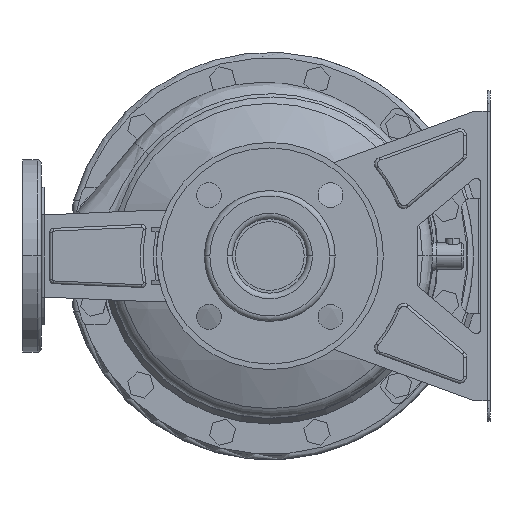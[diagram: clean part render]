
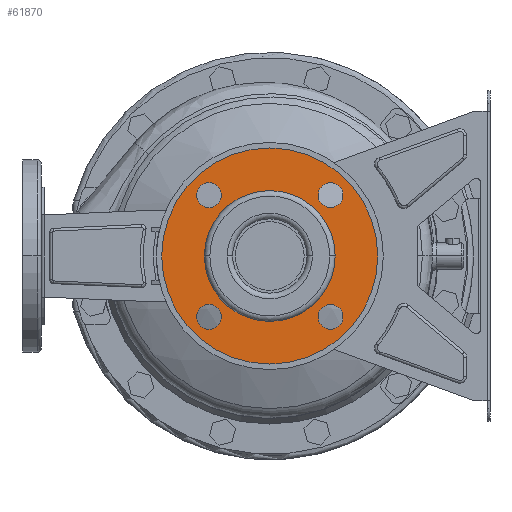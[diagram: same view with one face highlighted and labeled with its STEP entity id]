
A CAD part, front view. The second image highlights one B-rep face of the part: STEP entity #61870.
In plain terms, the highlighted planar face has unit normal (0, -1, 0).
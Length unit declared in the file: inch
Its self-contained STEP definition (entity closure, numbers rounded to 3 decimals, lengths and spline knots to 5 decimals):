
#1221 = EDGE_LOOP ( 'NONE', ( #93006, #105394 ) ) ;
#1661 = VERTEX_POINT ( 'NONE', #81621 ) ;
#1915 = EDGE_CURVE ( 'NONE', #109129, #16733, #13900, .T. ) ;
#2172 = CARTESIAN_POINT ( 'NONE',  ( -1.73993, -7.32283, 2.09426 ) ) ;
#2200 = DIRECTION ( 'NONE',  ( 0., -1., 0. ) ) ;
#2648 = FACE_BOUND ( 'NONE', #1221, .T. ) ;
#2676 = AXIS2_PLACEMENT_3D ( 'NONE', #59415, #111496, #93926 ) ;
#4154 = AXIS2_PLACEMENT_3D ( 'NONE', #16426, #38688, #41898 ) ;
#4244 = CIRCLE ( 'NONE', #4154, 0.35433 ) ;
#4577 = DIRECTION ( 'NONE',  ( 0., 1., 0. ) ) ;
#7260 = CIRCLE ( 'NONE', #59708, 3.09055 ) ;
#10185 = DIRECTION ( 'NONE',  ( 0., 1., 0. ) ) ;
#10287 = EDGE_LOOP ( 'NONE', ( #20420, #88866 ) ) ;
#10903 = CARTESIAN_POINT ( 'NONE',  ( 3.09055, -7.32283, 0. ) ) ;
#11709 = FACE_OUTER_BOUND ( 'NONE', #76166, .T. ) ;
#13192 = EDGE_CURVE ( 'NONE', #23193, #86480, #108882, .T. ) ;
#13854 = CARTESIAN_POINT ( 'NONE',  ( -1.73993, -7.32283, 1.3856 ) ) ;
#13900 = CIRCLE ( 'NONE', #33793, 0.35433 ) ;
#15457 = VERTEX_POINT ( 'NONE', #15941 ) ;
#15694 = CARTESIAN_POINT ( 'NONE',  ( 1.3856, -7.32283, 1.73993 ) ) ;
#15941 = CARTESIAN_POINT ( 'NONE',  ( 1.73993, -7.32283, -2.09426 ) ) ;
#16111 = CARTESIAN_POINT ( 'NONE',  ( 1.87008, -7.32283, 0. ) ) ;
#16426 = CARTESIAN_POINT ( 'NONE',  ( -1.73993, -7.32283, -1.73993 ) ) ;
#16733 = VERTEX_POINT ( 'NONE', #2172 ) ;
#16818 = VERTEX_POINT ( 'NONE', #15694 ) ;
#19147 = ORIENTED_EDGE ( 'NONE', *, *, #26587, .T. ) ;
#19182 = EDGE_CURVE ( 'NONE', #103628, #104461, #71432, .T. ) ;
#19653 = FACE_BOUND ( 'NONE', #45989, .T. ) ;
#20420 = ORIENTED_EDGE ( 'NONE', *, *, #62475, .T. ) ;
#20487 = ORIENTED_EDGE ( 'NONE', *, *, #63346, .T. ) ;
#21686 = EDGE_LOOP ( 'NONE', ( #97113, #29250 ) ) ;
#21828 = EDGE_CURVE ( 'NONE', #65444, #48783, #4244, .T. ) ;
#22975 = CIRCLE ( 'NONE', #24836, 0.35433 ) ;
#23193 = VERTEX_POINT ( 'NONE', #106528 ) ;
#23216 = CARTESIAN_POINT ( 'NONE',  ( -1.3856, -7.32283, -1.73993 ) ) ;
#24649 = CARTESIAN_POINT ( 'NONE',  ( 1.73993, -7.32283, 1.73993 ) ) ;
#24836 = AXIS2_PLACEMENT_3D ( 'NONE', #24649, #66584, #31477 ) ;
#26059 = CIRCLE ( 'NONE', #53134, 0.35433 ) ;
#26587 = EDGE_CURVE ( 'NONE', #1661, #15457, #26059, .T. ) ;
#27393 = CARTESIAN_POINT ( 'NONE',  ( -2.09426, -7.32283, -1.73993 ) ) ;
#27656 = DIRECTION ( 'NONE',  ( -1., 0., 0. ) ) ;
#28212 = CARTESIAN_POINT ( 'NONE',  ( 0., -7.32283, 0. ) ) ;
#29250 = ORIENTED_EDGE ( 'NONE', *, *, #74121, .T. ) ;
#30945 = CARTESIAN_POINT ( 'NONE',  ( 1.73993, -7.32283, 1.73993 ) ) ;
#31477 = DIRECTION ( 'NONE',  ( 1., 0., 0. ) ) ;
#33793 = AXIS2_PLACEMENT_3D ( 'NONE', #63395, #10185, #70240 ) ;
#35984 = EDGE_CURVE ( 'NONE', #23193, #86480, #7260, .T. ) ;
#36539 = EDGE_CURVE ( 'NONE', #16818, #52672, #94117, .T. ) ;
#36784 = CARTESIAN_POINT ( 'NONE',  ( -1.73993, -7.32283, 1.73993 ) ) ;
#37752 = CARTESIAN_POINT ( 'NONE',  ( 0., -7.32283, 0. ) ) ;
#38688 = DIRECTION ( 'NONE',  ( 0., 1., 0. ) ) ;
#41898 = DIRECTION ( 'NONE',  ( 1., 0., 0. ) ) ;
#42092 = DIRECTION ( 'NONE',  ( 0., 1., 0. ) ) ;
#44483 = DIRECTION ( 'NONE',  ( 0., 1., 0. ) ) ;
#45808 = CARTESIAN_POINT ( 'NONE',  ( 0., -7.32283, 0. ) ) ;
#45989 = EDGE_LOOP ( 'NONE', ( #20487, #19147 ) ) ;
#46087 = CARTESIAN_POINT ( 'NONE',  ( 2.09426, -7.32283, 1.73993 ) ) ;
#46250 = DIRECTION ( 'NONE',  ( 0., 1., 0. ) ) ;
#47409 = AXIS2_PLACEMENT_3D ( 'NONE', #37752, #46250, #90373 ) ;
#47635 = AXIS2_PLACEMENT_3D ( 'NONE', #77760, #42092, #85681 ) ;
#48783 = VERTEX_POINT ( 'NONE', #27393 ) ;
#50429 = ORIENTED_EDGE ( 'NONE', *, *, #76914, .T. ) ;
#51519 = CIRCLE ( 'NONE', #2676, 1.87008 ) ;
#52672 = VERTEX_POINT ( 'NONE', #46087 ) ;
#53134 = AXIS2_PLACEMENT_3D ( 'NONE', #58240, #93304, #57683 ) ;
#54197 = PLANE ( 'NONE',  #47409 ) ;
#55993 = DIRECTION ( 'NONE',  ( 0., 0., 1. ) ) ;
#57683 = DIRECTION ( 'NONE',  ( 0., 0., 1. ) ) ;
#58240 = CARTESIAN_POINT ( 'NONE',  ( 1.73993, -7.32283, -1.73993 ) ) ;
#59415 = CARTESIAN_POINT ( 'NONE',  ( 0., -7.32283, 0. ) ) ;
#59708 = AXIS2_PLACEMENT_3D ( 'NONE', #80507, #4577, #88420 ) ;
#61497 = EDGE_LOOP ( 'NONE', ( #50429, #72672 ) ) ;
#61870 = ADVANCED_FACE ( 'NONE', ( #11709, #64356, #2648, #19653, #71751, #99411 ), #54197, .F. ) ;
#62475 = EDGE_CURVE ( 'NONE', #16733, #109129, #72890, .T. ) ;
#62727 = CIRCLE ( 'NONE', #70028, 0.35433 ) ;
#62828 = DIRECTION ( 'NONE',  ( 0., 1., 0. ) ) ;
#63346 = EDGE_CURVE ( 'NONE', #15457, #1661, #107275, .T. ) ;
#63395 = CARTESIAN_POINT ( 'NONE',  ( -1.73993, -7.32283, 1.73993 ) ) ;
#63702 = ORIENTED_EDGE ( 'NONE', *, *, #13192, .T. ) ;
#64356 = FACE_BOUND ( 'NONE', #21686, .T. ) ;
#64925 = DIRECTION ( 'NONE',  ( -1., 0., 0. ) ) ;
#65444 = VERTEX_POINT ( 'NONE', #23216 ) ;
#66584 = DIRECTION ( 'NONE',  ( 0., 1., 0. ) ) ;
#67378 = AXIS2_PLACEMENT_3D ( 'NONE', #45808, #2200, #89927 ) ;
#70028 = AXIS2_PLACEMENT_3D ( 'NONE', #79025, #44483, #70555 ) ;
#70240 = DIRECTION ( 'NONE',  ( 0., 0., -1. ) ) ;
#70555 = DIRECTION ( 'NONE',  ( -1., 0., 0. ) ) ;
#71432 = CIRCLE ( 'NONE', #85896, 1.87008 ) ;
#71751 = FACE_BOUND ( 'NONE', #61497, .T. ) ;
#72672 = ORIENTED_EDGE ( 'NONE', *, *, #21828, .T. ) ;
#72890 = CIRCLE ( 'NONE', #76511, 0.35433 ) ;
#74121 = EDGE_CURVE ( 'NONE', #103628, #104461, #51519, .T. ) ;
#76166 = EDGE_LOOP ( 'NONE', ( #88238, #63702 ) ) ;
#76511 = AXIS2_PLACEMENT_3D ( 'NONE', #36784, #62828, #55993 ) ;
#76914 = EDGE_CURVE ( 'NONE', #48783, #65444, #62727, .T. ) ;
#77760 = CARTESIAN_POINT ( 'NONE',  ( 1.73993, -7.32283, -1.73993 ) ) ;
#79025 = CARTESIAN_POINT ( 'NONE',  ( -1.73993, -7.32283, -1.73993 ) ) ;
#80507 = CARTESIAN_POINT ( 'NONE',  ( 0., -7.32283, 0. ) ) ;
#81621 = CARTESIAN_POINT ( 'NONE',  ( 1.73993, -7.32283, -1.3856 ) ) ;
#85681 = DIRECTION ( 'NONE',  ( 0., 0., -1. ) ) ;
#85896 = AXIS2_PLACEMENT_3D ( 'NONE', #28212, #104649, #27656 ) ;
#86480 = VERTEX_POINT ( 'NONE', #10903 ) ;
#88238 = ORIENTED_EDGE ( 'NONE', *, *, #35984, .F. ) ;
#88420 = DIRECTION ( 'NONE',  ( -1., 0., 0. ) ) ;
#88866 = ORIENTED_EDGE ( 'NONE', *, *, #1915, .T. ) ;
#89927 = DIRECTION ( 'NONE',  ( -1., 0., 0. ) ) ;
#90373 = DIRECTION ( 'NONE',  ( -1., 0., 0. ) ) ;
#91703 = CARTESIAN_POINT ( 'NONE',  ( -1.87008, -7.32283, 0. ) ) ;
#92072 = DIRECTION ( 'NONE',  ( 0., 1., 0. ) ) ;
#93006 = ORIENTED_EDGE ( 'NONE', *, *, #108003, .T. ) ;
#93304 = DIRECTION ( 'NONE',  ( 0., 1., 0. ) ) ;
#93926 = DIRECTION ( 'NONE',  ( -1., 0., 0. ) ) ;
#94117 = CIRCLE ( 'NONE', #104945, 0.35433 ) ;
#97113 = ORIENTED_EDGE ( 'NONE', *, *, #19182, .F. ) ;
#99411 = FACE_BOUND ( 'NONE', #10287, .T. ) ;
#103628 = VERTEX_POINT ( 'NONE', #91703 ) ;
#104461 = VERTEX_POINT ( 'NONE', #16111 ) ;
#104649 = DIRECTION ( 'NONE',  ( 0., -1., 0. ) ) ;
#104945 = AXIS2_PLACEMENT_3D ( 'NONE', #30945, #92072, #64925 ) ;
#105394 = ORIENTED_EDGE ( 'NONE', *, *, #36539, .T. ) ;
#106528 = CARTESIAN_POINT ( 'NONE',  ( -3.09055, -7.32283, 0. ) ) ;
#107275 = CIRCLE ( 'NONE', #47635, 0.35433 ) ;
#108003 = EDGE_CURVE ( 'NONE', #52672, #16818, #22975, .T. ) ;
#108882 = CIRCLE ( 'NONE', #67378, 3.09055 ) ;
#109129 = VERTEX_POINT ( 'NONE', #13854 ) ;
#111496 = DIRECTION ( 'NONE',  ( 0., 1., 0. ) ) ;
